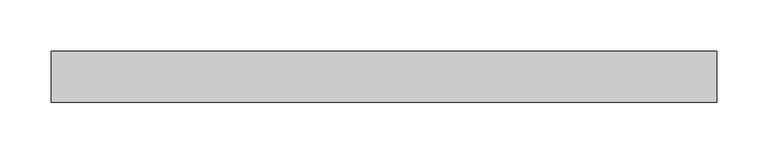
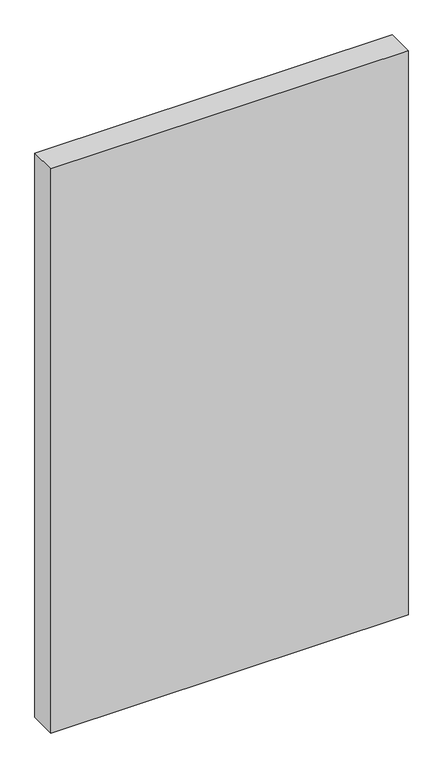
"""IFC4 building model written with IfcOpenShell, lengths in millimetres: plate geometry, Системная панель : Стекло(50мм)."""

from ifc_helpers import new_model, si_unit, origin, origin_with_axes, place, context, project, spatial, polyline, outline, extrude, source, transform, mapped, element, save


def plate_4ed42cca(model_context):
    return source(origin(), model_context, "Body", "SweptSolid", [
        extrude(outline(polyline([(325.0, -25.0), (-325.0, -25.0), (-325.0, 25.0), (325.0, 25.0), (325.0, -25.0)])), origin_with_axes(), (0.0, 0.0, 1.0), 1085.0),
    ])


if __name__ == "__main__":
    model = new_model("IFC4")
    model_context = context("Model", 3, world=origin())
    ifc_project = project(units=[si_unit("LENGTHUNIT", "METRE", prefix="MILLI")], contexts=[model_context])
    site = spatial("IfcSite", under=ifc_project)
    building = spatial("IfcBuilding", under=site)
    placement = place(None, origin())
    plate_shape = plate_4ed42cca(model_context)
    element("IfcPlate", 1, ObjectType="Системная панель : Стекло(50мм)", at=placement, inside=building, context=model_context, shape_type="MappedRepresentation", body=[
        mapped(plate_shape, transform((0.0, 0.0, 0.0), x_axis=(1.0, 0.0, 0.0), y_axis=(0.0, 1.0, 0.0), z_axis=(0.0, 0.0, 1.0))),
    ])
    save(model, "model.ifc")
